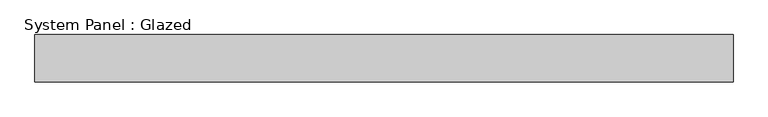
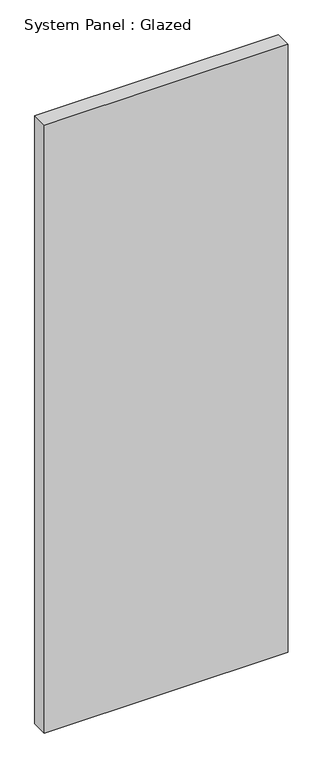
"""IFC4 building model written with IfcOpenShell, lengths in millimetres: plate geometry, System Panel : Glazed."""

from ifc_helpers import new_model, si_unit, origin, origin_with_axes, place, context, project, spatial, polyline, outline, extrude, source, transform, mapped, element, save


def system_panel_glazed_5fb56a60(model_context):
    return source(origin(), model_context, "Body", "SweptSolid", [
        extrude(outline(polyline([(739.8448277, -150.0), (-739.8448277, -150.0), (-739.8448277, -50.0), (739.8448277, -50.0), (739.8448277, -150.0)])), origin_with_axes(), (0.0, 0.0, 1.0), 3900.0),
    ])


if __name__ == "__main__":
    model = new_model("IFC4")
    model_context = context("Model", 3, world=origin())
    ifc_project = project(units=[si_unit("LENGTHUNIT", "METRE", prefix="MILLI")], contexts=[model_context])
    site = spatial("IfcSite", under=ifc_project)
    building = spatial("IfcBuilding", under=site)
    placement = place(None, origin())
    system_panel_glazed_shape = system_panel_glazed_5fb56a60(model_context)
    element("IfcPlate", 1, ObjectType="System Panel : Glazed", at=placement, inside=building, context=model_context, shape_type="MappedRepresentation", body=[
        mapped(system_panel_glazed_shape, transform((0.0, 0.0, 0.0), x_axis=(1.0, 0.0, 0.0), y_axis=(0.0, 1.0, 0.0), z_axis=(0.0, 0.0, 1.0))),
    ])
    save(model, "model.ifc")
